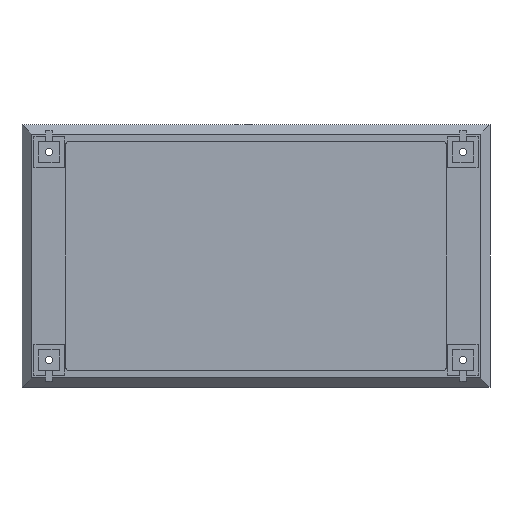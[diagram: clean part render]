
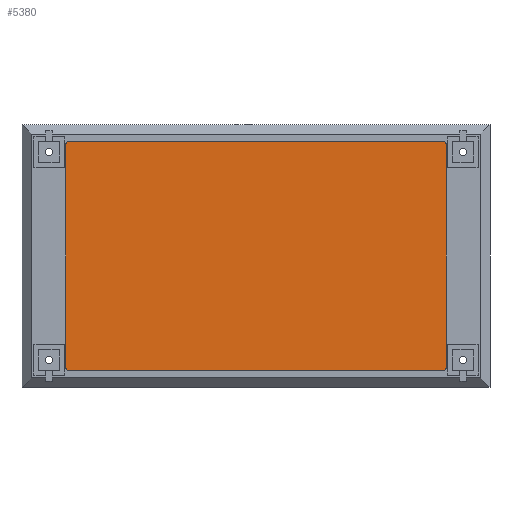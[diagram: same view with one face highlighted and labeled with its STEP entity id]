
A CAD part, front view. The second image highlights one B-rep face of the part: STEP entity #5380.
In plain terms, the highlighted planar face has unit normal (0, -1, 0).
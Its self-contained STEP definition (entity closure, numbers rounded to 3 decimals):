
#104 = VERTEX_POINT ( 'NONE', #3656 ) ;
#127 = VERTEX_POINT ( 'NONE', #3193 ) ;
#146 = EDGE_LOOP ( 'NONE', ( #4261, #4704, #5018, #5428, #452, #1250, #1486, #1655 ) ) ;
#451 = CARTESIAN_POINT ( 'NONE',  ( -79.85, 1.5, -47.5 ) ) ;
#452 = ORIENTED_EDGE ( 'NONE', *, *, #549, .T. ) ;
#549 = EDGE_CURVE ( 'NONE', #1097, #4008, #3509, .T. ) ;
#593 = VERTEX_POINT ( 'NONE', #6065 ) ;
#730 = LINE ( 'NONE', #3300, #4585 ) ;
#743 = LINE ( 'NONE', #4274, #5942 ) ;
#832 = CARTESIAN_POINT ( 'NONE',  ( -81.35, 1.5, 49. ) ) ;
#894 = VERTEX_POINT ( 'NONE', #2622 ) ;
#958 = CIRCLE ( 'NONE', #1119, 1.5 ) ;
#961 = DIRECTION ( 'NONE',  ( 0., 0., -1. ) ) ;
#1052 = CIRCLE ( 'NONE', #4253, 1.5 ) ;
#1097 = VERTEX_POINT ( 'NONE', #4726 ) ;
#1109 = AXIS2_PLACEMENT_3D ( 'NONE', #4862, #4839, #4814 ) ;
#1119 = AXIS2_PLACEMENT_3D ( 'NONE', #451, #3991, #961 ) ;
#1219 = DIRECTION ( 'NONE',  ( 0., 0., -1. ) ) ;
#1250 = ORIENTED_EDGE ( 'NONE', *, *, #5050, .T. ) ;
#1486 = ORIENTED_EDGE ( 'NONE', *, *, #4117, .T. ) ;
#1655 = ORIENTED_EDGE ( 'NONE', *, *, #2132, .T. ) ;
#1738 = CARTESIAN_POINT ( 'NONE',  ( -81.35, 1.5, -49. ) ) ;
#1838 = EDGE_CURVE ( 'NONE', #127, #894, #743, .T. ) ;
#1842 = EDGE_CURVE ( 'NONE', #894, #1097, #3447, .T. ) ;
#2132 = EDGE_CURVE ( 'NONE', #3457, #104, #1052, .T. ) ;
#2159 = DIRECTION ( 'NONE',  ( 0., 0., -1. ) ) ;
#2179 = VECTOR ( 'NONE', #1219, 1000. ) ;
#2187 = DIRECTION ( 'NONE',  ( 0., -1., 0. ) ) ;
#2227 = CARTESIAN_POINT ( 'NONE',  ( 79.85, 1.5, -47.5 ) ) ;
#2343 = LINE ( 'NONE', #1738, #5305 ) ;
#2586 = EDGE_CURVE ( 'NONE', #104, #593, #730, .T. ) ;
#2622 = CARTESIAN_POINT ( 'NONE',  ( -79.85, 1.5, 49. ) ) ;
#2632 = DIRECTION ( 'NONE',  ( 0., 0., 1. ) ) ;
#2739 = EDGE_CURVE ( 'NONE', #593, #127, #3989, .T. ) ;
#2744 = DIRECTION ( 'NONE',  ( 0., -1., 0. ) ) ;
#3193 = CARTESIAN_POINT ( 'NONE',  ( 79.85, 1.5, 49. ) ) ;
#3300 = CARTESIAN_POINT ( 'NONE',  ( 81.35, 1.5, 49. ) ) ;
#3362 = CARTESIAN_POINT ( 'NONE',  ( -79.85, 1.5, -49. ) ) ;
#3447 = CIRCLE ( 'NONE', #4035, 1.5 ) ;
#3457 = VERTEX_POINT ( 'NONE', #4600 ) ;
#3509 = LINE ( 'NONE', #832, #2179 ) ;
#3656 = CARTESIAN_POINT ( 'NONE',  ( 81.35, 1.5, -47.5 ) ) ;
#3680 = VERTEX_POINT ( 'NONE', #3362 ) ;
#3842 = DIRECTION ( 'NONE',  ( 0., 0., -1. ) ) ;
#3868 = DIRECTION ( 'NONE',  ( 0., -1., 0. ) ) ;
#3918 = CARTESIAN_POINT ( 'NONE',  ( -79.85, 1.5, 47.5 ) ) ;
#3989 = CIRCLE ( 'NONE', #1109, 1.5 ) ;
#3991 = DIRECTION ( 'NONE',  ( 0., -1., 0. ) ) ;
#4008 = VERTEX_POINT ( 'NONE', #4620 ) ;
#4035 = AXIS2_PLACEMENT_3D ( 'NONE', #3918, #3868, #3842 ) ;
#4117 = EDGE_CURVE ( 'NONE', #3680, #3457, #2343, .T. ) ;
#4248 = DIRECTION ( 'NONE',  ( -1., 0., 0. ) ) ;
#4253 = AXIS2_PLACEMENT_3D ( 'NONE', #2227, #2187, #2159 ) ;
#4261 = ORIENTED_EDGE ( 'NONE', *, *, #2586, .T. ) ;
#4274 = CARTESIAN_POINT ( 'NONE',  ( -81.35, 1.5, 49. ) ) ;
#4585 = VECTOR ( 'NONE', #2632, 1000. ) ;
#4600 = CARTESIAN_POINT ( 'NONE',  ( 79.85, 1.5, -49. ) ) ;
#4620 = CARTESIAN_POINT ( 'NONE',  ( -81.35, 1.5, -47.5 ) ) ;
#4704 = ORIENTED_EDGE ( 'NONE', *, *, #2739, .T. ) ;
#4723 = CARTESIAN_POINT ( 'NONE',  ( 0., 1.5, 0. ) ) ;
#4726 = CARTESIAN_POINT ( 'NONE',  ( -81.35, 1.5, 47.5 ) ) ;
#4814 = DIRECTION ( 'NONE',  ( 0., 0., -1. ) ) ;
#4839 = DIRECTION ( 'NONE',  ( 0., -1., 0. ) ) ;
#4862 = CARTESIAN_POINT ( 'NONE',  ( 79.85, 1.5, 47.5 ) ) ;
#4963 = FACE_OUTER_BOUND ( 'NONE', #146, .T. ) ;
#5018 = ORIENTED_EDGE ( 'NONE', *, *, #1838, .T. ) ;
#5050 = EDGE_CURVE ( 'NONE', #4008, #3680, #958, .T. ) ;
#5234 = DIRECTION ( 'NONE',  ( 1., 0., 0. ) ) ;
#5305 = VECTOR ( 'NONE', #5234, 1000. ) ;
#5380 = ADVANCED_FACE ( 'NONE', ( #4963 ), #5733, .T. ) ;
#5394 = AXIS2_PLACEMENT_3D ( 'NONE', #4723, #2744, #6220 ) ;
#5428 = ORIENTED_EDGE ( 'NONE', *, *, #1842, .T. ) ;
#5733 = PLANE ( 'NONE',  #5394 ) ;
#5942 = VECTOR ( 'NONE', #4248, 1000. ) ;
#6065 = CARTESIAN_POINT ( 'NONE',  ( 81.35, 1.5, 47.5 ) ) ;
#6220 = DIRECTION ( 'NONE',  ( 0., 0., -1. ) ) ;
